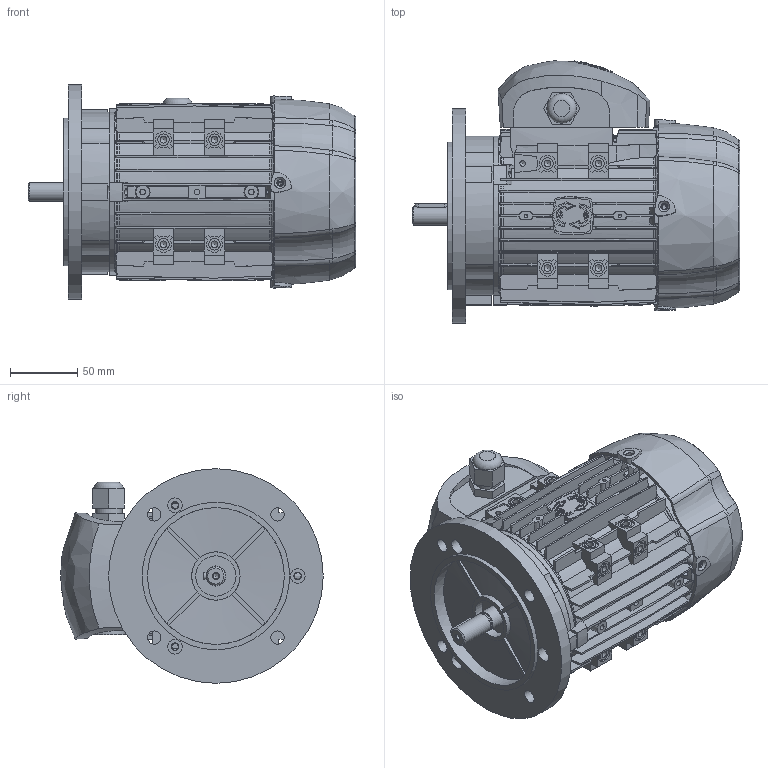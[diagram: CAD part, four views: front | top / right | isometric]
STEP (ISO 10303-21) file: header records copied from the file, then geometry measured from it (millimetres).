
FILE_DESCRIPTION((''),'2;1');
FILE_NAME('D:\htdocs\motive\source_step\M71.stp','2014-09-02T16:39:23',('ing.Casini'),(''),'Autodesk Inventor 2010','Autodesk Inventor 2010','');
FILE_SCHEMA(('AUTOMOTIVE_DESIGN { 1 0 10303 214 1 1 1 1 }'));
Length unit declared in the file: millimetre
Products named in the file (7): M71 Lighter motor Assly_14.08; BODY71; B571; NDE71; SH71; TBOX63_80; FCV71
Assembly tree (6 placements, depth 2):
  M71 Lighter motor Assly_14.08
    BODY71
    B571
    NDE71
    SH71
    TBOX63_80
    FCV71
Bounding box: 244.52 x 195.64 x 160 mm (x, y, z)
Volume: 950075.1 mm3; surface area: 409057.6 mm2
Topology: 6 solids, 6 shells, 1944 faces, 5441 edges, 3616 vertices
Faces by surface type: plane 670, bspline 472, cylinder 384, cone 255, torus 160, sphere 3
Full cylindrical faces by diameter (mm): 2.5 x4, 3.3 x4, 4.2 x19, 5 x23, 5.4 x3, 5.5 x4, 5.8 x3, 8.5 x12, 9.95 x4, 10 x4, 11 x3, 13.3 x1, 14 x1, 15 x3, 20 x1, 25 x1, 28 x2, 30 x2, 35 x2, 36 x1, 102 x1, 107 x1, 110 x2, 111 x2, 112 x2, 160 x1
Entity records: 93493 total; most frequent: CARTESIAN_POINT 47696, ORIENTED_EDGE 10458, DIRECTION 7937, EDGE_CURVE 5229, VERTEX_POINT 3562, AXIS2_PLACEMENT_3D 3052, EDGE_LOOP 2275, FACE_OUTER_BOUND 1944
